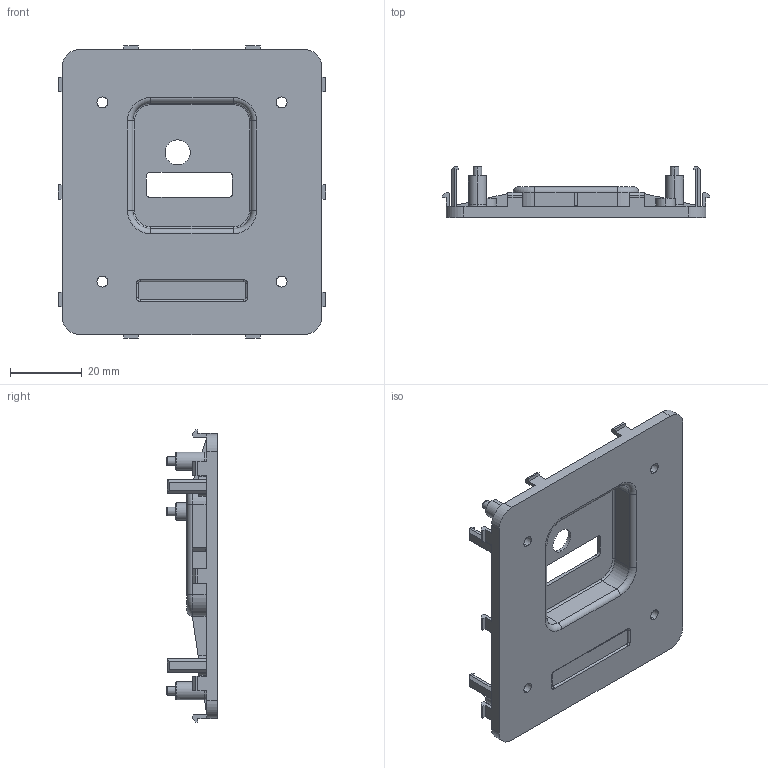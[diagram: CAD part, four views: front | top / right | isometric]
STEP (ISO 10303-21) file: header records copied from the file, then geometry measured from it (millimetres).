
FILE_DESCRIPTION (( 'STEP AP203' ), '1' );
FILE_NAME ('166729_3D_Kryshka.STEP', '2020-12-03T15:37:08', ( '' ), ( '' ), 'SwSTEP 2.0', 'SolidWorks 2020', '' );
FILE_SCHEMA (( 'CONFIG_CONTROL_DESIGN' ));
Length unit declared in the file: millimetre
Products named in the file (1): 166729_3D_Kryshka
Bounding box: 74.5 x 14.2 x 81.5 mm (x, y, z)
Volume: 10883.9 mm3; surface area: 16649.1 mm2
Topology: 1 solids, 1 shells, 323 faces, 860 edges, 549 vertices
Faces by surface type: plane 192, cylinder 78, torus 33, cone 16, bspline 4
Entity records: 10299 total; most frequent: CARTESIAN_POINT 1999, DIRECTION 1726, ORIENTED_EDGE 1720, EDGE_CURVE 860, VECTOR 618, LINE 618, AXIS2_PLACEMENT_3D 554, VERTEX_POINT 549
